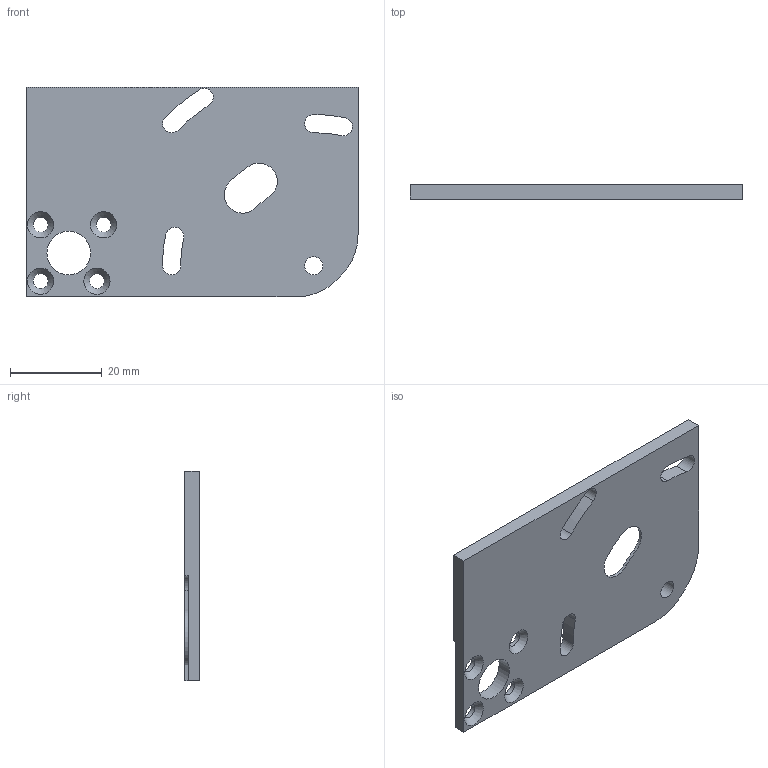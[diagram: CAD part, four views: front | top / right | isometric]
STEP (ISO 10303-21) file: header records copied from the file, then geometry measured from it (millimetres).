
FILE_DESCRIPTION(/* description */ ('Unknown'),/* implementation_level */ '2;1');
FILE_NAME(/* name */ 'RA Holder',/* time_stamp */ '2023-05-18T15:48:25-04:00',/* author */ ('Unknown'),/* organization */ ('Unknown'),/* preprocessor_version */ 'ST-DEVELOPER v16.7',/* originating_system */ 'DEX',/* authorisation */ $);
FILE_SCHEMA (('AUTOMOTIVE_DESIGN {1 0 10303 214 3 1 1}'));
Length unit declared in the file: millimetre
Products named in the file (1): RA Holder
Bounding box: 72.39 x 3.17 x 45.73 mm (x, y, z)
Volume: 7773.3 mm3; surface area: 7344.5 mm2
Topology: 1 solids, 1 shells, 48 faces, 135 edges, 91 vertices
Faces by surface type: cylinder 30, plane 14, cone 4
Full cylindrical faces by diameter (mm): 3.264 x4, 3.969 x1, 9.525 x1, 12.192 x1
Entity records: 1539 total; most frequent: DIRECTION 279, CARTESIAN_POINT 250, ORIENTED_EDGE 234, EDGE_CURVE 117, AXIS2_PLACEMENT_3D 113, VERTEX_POINT 84, EDGE_LOOP 81, FACE_BOUND 81
